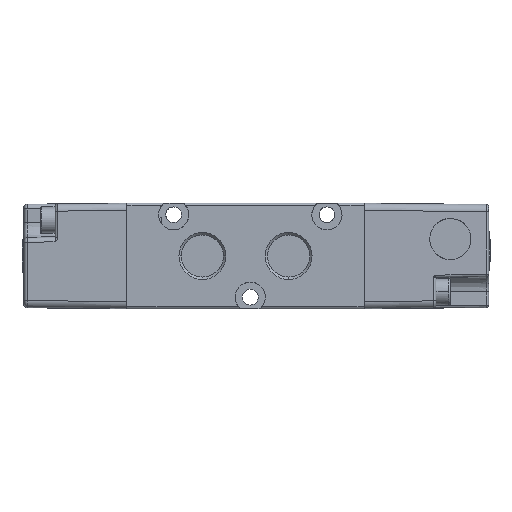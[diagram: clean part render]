
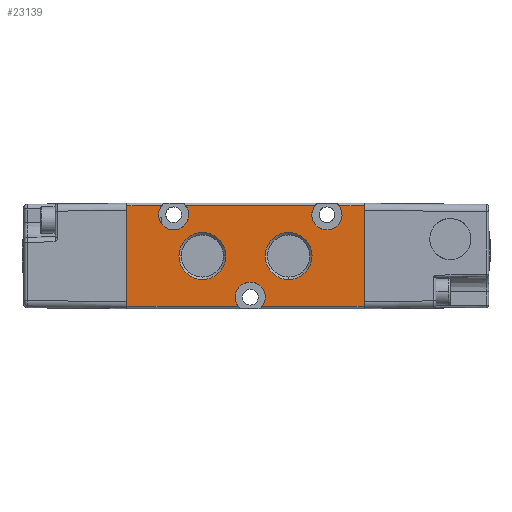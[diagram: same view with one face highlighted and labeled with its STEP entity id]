
A CAD part, left-side view. The second image highlights one B-rep face of the part: STEP entity #23139.
In plain terms, the highlighted planar face has unit normal (-1, 0, 0).
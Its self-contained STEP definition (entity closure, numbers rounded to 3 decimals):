
#2345 = CARTESIAN_POINT ( 'NONE',  ( -15., 19.762, -10.5 ) ) ;
#2474 = CARTESIAN_POINT ( 'NONE',  ( -15., 9.25, -4.889 ) ) ;
#2821 = DIRECTION ( 'NONE',  ( 0., 1., 0. ) ) ;
#2849 = VERTEX_POINT ( 'NONE', #44938 ) ;
#3246 = ORIENTED_EDGE ( 'NONE', *, *, #46863, .F. ) ;
#3263 = ORIENTED_EDGE ( 'NONE', *, *, #46313, .F. ) ;
#3971 = DIRECTION ( 'NONE',  ( 0., 0., 1. ) ) ;
#4009 = DIRECTION ( 'NONE',  ( 0., -1., 0. ) ) ;
#4620 = CARTESIAN_POINT ( 'NONE',  ( -15., 43., -10.5 ) ) ;
#4960 = CARTESIAN_POINT ( 'NONE',  ( -15., 30.738, 10.5 ) ) ;
#5163 = CARTESIAN_POINT ( 'NONE',  ( -15., 22.361, 0. ) ) ;
#5826 = CARTESIAN_POINT ( 'NONE',  ( -15., -6.5, 10.5 ) ) ;
#6376 = ORIENTED_EDGE ( 'NONE', *, *, #54886, .F. ) ;
#7271 = DIRECTION ( 'NONE',  ( -1., 0., 0. ) ) ;
#7297 = VECTOR ( 'NONE', #54016, 1000. ) ;
#7388 = VECTOR ( 'NONE', #11085, 1000. ) ;
#7476 = DIRECTION ( 'NONE',  ( 0., 0., 1. ) ) ;
#8028 = VERTEX_POINT ( 'NONE', #33678 ) ;
#8368 = DIRECTION ( 'NONE',  ( 0., -1., 0. ) ) ;
#9202 = LINE ( 'NONE', #51783, #60803 ) ;
#9768 = LINE ( 'NONE', #13163, #16576 ) ;
#11085 = DIRECTION ( 'NONE',  ( 0., -1., 0. ) ) ;
#11705 = VERTEX_POINT ( 'NONE', #55045 ) ;
#11983 = CARTESIAN_POINT ( 'NONE',  ( -15., 43., 9.5 ) ) ;
#12382 = LINE ( 'NONE', #18381, #60883 ) ;
#13163 = CARTESIAN_POINT ( 'NONE',  ( -15., -6.5, -10.5 ) ) ;
#13712 = EDGE_CURVE ( 'NONE', #8028, #11705, #54374, .T. ) ;
#14133 = CARTESIAN_POINT ( 'NONE',  ( -15., -6.5, -10.5 ) ) ;
#15163 = ORIENTED_EDGE ( 'NONE', *, *, #25943, .F. ) ;
#15460 = AXIS2_PLACEMENT_3D ( 'NONE', #16126, #35174, #20365 ) ;
#15643 = AXIS2_PLACEMENT_3D ( 'NONE', #60133, #41728, #26009 ) ;
#15904 = CARTESIAN_POINT ( 'NONE',  ( -15., 9.25, 0. ) ) ;
#16126 = CARTESIAN_POINT ( 'NONE',  ( -15., 27.25, 0. ) ) ;
#16576 = VECTOR ( 'NONE', #2821, 1000. ) ;
#16968 = EDGE_CURVE ( 'NONE', #37640, #38737, #17008, .T. ) ;
#17008 = CIRCLE ( 'NONE', #15460, 4.889 ) ;
#17169 = EDGE_CURVE ( 'NONE', #2849, #28613, #12382, .T. ) ;
#18381 = CARTESIAN_POINT ( 'NONE',  ( -15., 43., 11. ) ) ;
#18527 = DIRECTION ( 'NONE',  ( -1., 0., 0. ) ) ;
#18987 = DIRECTION ( 'NONE',  ( 1., 0., 0. ) ) ;
#19299 = ORIENTED_EDGE ( 'NONE', *, *, #56926, .F. ) ;
#19362 = LINE ( 'NONE', #34956, #7297 ) ;
#19928 = CIRCLE ( 'NONE', #52642, 4.889 ) ;
#20365 = DIRECTION ( 'NONE',  ( 0., -1., 0. ) ) ;
#20792 = DIRECTION ( 'NONE',  ( 0., 0., 1. ) ) ;
#21011 = CARTESIAN_POINT ( 'NONE',  ( -15., 3.762, 10.5 ) ) ;
#21305 = VERTEX_POINT ( 'NONE', #4620 ) ;
#21935 = VERTEX_POINT ( 'NONE', #43097 ) ;
#22411 = EDGE_CURVE ( 'NONE', #26542, #53039, #52886, .T. ) ;
#23139 = ADVANCED_FACE ( 'NONE', ( #42223, #26261, #58104 ), #40029, .F. ) ;
#24054 = ORIENTED_EDGE ( 'NONE', *, *, #13712, .T. ) ;
#25943 = EDGE_CURVE ( 'NONE', #38737, #37640, #19928, .T. ) ;
#26009 = DIRECTION ( 'NONE',  ( 0., 1., 0. ) ) ;
#26261 = FACE_BOUND ( 'NONE', #60835, .T. ) ;
#26542 = VERTEX_POINT ( 'NONE', #50481 ) ;
#26573 = ORIENTED_EDGE ( 'NONE', *, *, #61512, .F. ) ;
#27209 = CARTESIAN_POINT ( 'NONE',  ( -15., 32.139, 0. ) ) ;
#27777 = EDGE_CURVE ( 'NONE', #36330, #21935, #58152, .T. ) ;
#27795 = ORIENTED_EDGE ( 'NONE', *, *, #22411, .F. ) ;
#27886 = EDGE_CURVE ( 'NONE', #43817, #21935, #44523, .T. ) ;
#28254 = VECTOR ( 'NONE', #34217, 1000. ) ;
#28613 = VERTEX_POINT ( 'NONE', #11983 ) ;
#29176 = ORIENTED_EDGE ( 'NONE', *, *, #44911, .F. ) ;
#29525 = CIRCLE ( 'NONE', #30708, 3.15 ) ;
#29593 = CARTESIAN_POINT ( 'NONE',  ( -15., -6.5, 10.5 ) ) ;
#30027 = VECTOR ( 'NONE', #4009, 1000. ) ;
#30489 = ORIENTED_EDGE ( 'NONE', *, *, #27777, .T. ) ;
#30708 = AXIS2_PLACEMENT_3D ( 'NONE', #47584, #18527, #62178 ) ;
#31748 = ORIENTED_EDGE ( 'NONE', *, *, #17169, .F. ) ;
#31763 = CARTESIAN_POINT ( 'NONE',  ( -15., 33.25, 8.6 ) ) ;
#31909 = VERTEX_POINT ( 'NONE', #2474 ) ;
#32131 = AXIS2_PLACEMENT_3D ( 'NONE', #15904, #55274, #20792 ) ;
#32332 = DIRECTION ( 'NONE',  ( 0., 0., 1. ) ) ;
#32799 = CIRCLE ( 'NONE', #60992, 3.15 ) ;
#33394 = CARTESIAN_POINT ( 'NONE',  ( -15., -6.5, -10.5 ) ) ;
#33521 = CARTESIAN_POINT ( 'NONE',  ( -15., 43., 10.5 ) ) ;
#33659 = VECTOR ( 'NONE', #38807, 1000. ) ;
#33671 = CARTESIAN_POINT ( 'NONE',  ( -15., 9.25, 4.889 ) ) ;
#33678 = CARTESIAN_POINT ( 'NONE',  ( -15., 17.25, -5.45 ) ) ;
#33937 = CARTESIAN_POINT ( 'NONE',  ( -15., -6.5, 11. ) ) ;
#34217 = DIRECTION ( 'NONE',  ( 0., 1., 0. ) ) ;
#34269 = ORIENTED_EDGE ( 'NONE', *, *, #16968, .F. ) ;
#34926 = EDGE_LOOP ( 'NONE', ( #41320, #24054, #29176, #30489, #54664, #3263, #19299, #27795, #26573, #42790, #31748, #53681, #3246 ) ) ;
#34956 = CARTESIAN_POINT ( 'NONE',  ( -15., 43., 11. ) ) ;
#35174 = DIRECTION ( 'NONE',  ( -1., 0., 0. ) ) ;
#35463 = CARTESIAN_POINT ( 'NONE',  ( -15., 27.25, 0. ) ) ;
#36129 = CARTESIAN_POINT ( 'NONE',  ( -15., 43., 11. ) ) ;
#36330 = VERTEX_POINT ( 'NONE', #33394 ) ;
#37640 = VERTEX_POINT ( 'NONE', #5163 ) ;
#38478 = VECTOR ( 'NONE', #53651, 1000. ) ;
#38737 = VERTEX_POINT ( 'NONE', #27209 ) ;
#38807 = DIRECTION ( 'NONE',  ( 0., 0., -1. ) ) ;
#40029 = PLANE ( 'NONE',  #15643 ) ;
#41320 = ORIENTED_EDGE ( 'NONE', *, *, #62832, .T. ) ;
#41728 = DIRECTION ( 'NONE',  ( 1., 0., 0. ) ) ;
#42223 = FACE_OUTER_BOUND ( 'NONE', #34926, .T. ) ;
#42790 = ORIENTED_EDGE ( 'NONE', *, *, #50272, .T. ) ;
#43097 = CARTESIAN_POINT ( 'NONE',  ( -15., -6.5, 10.5 ) ) ;
#43817 = VERTEX_POINT ( 'NONE', #58960 ) ;
#44177 = CIRCLE ( 'NONE', #46361, 4.889 ) ;
#44280 = DIRECTION ( 'NONE',  ( 0., 0., 1. ) ) ;
#44505 = AXIS2_PLACEMENT_3D ( 'NONE', #31763, #7271, #7476 ) ;
#44523 = LINE ( 'NONE', #5826, #7388 ) ;
#44911 = EDGE_CURVE ( 'NONE', #36330, #11705, #58631, .T. ) ;
#44938 = CARTESIAN_POINT ( 'NONE',  ( -15., 43., -9.5 ) ) ;
#46313 = EDGE_CURVE ( 'NONE', #54650, #43817, #29525, .T. ) ;
#46361 = AXIS2_PLACEMENT_3D ( 'NONE', #58856, #58648, #44280 ) ;
#46863 = EDGE_CURVE ( 'NONE', #56429, #21305, #9768, .T. ) ;
#47584 = CARTESIAN_POINT ( 'NONE',  ( -15., 1.25, 8.6 ) ) ;
#48833 = CIRCLE ( 'NONE', #32131, 4.889 ) ;
#48931 = VERTEX_POINT ( 'NONE', #33521 ) ;
#49121 = DIRECTION ( 'NONE',  ( 0., 0., 1. ) ) ;
#49955 = DIRECTION ( 'NONE',  ( -1., 0., 0. ) ) ;
#50272 = EDGE_CURVE ( 'NONE', #48931, #28613, #51194, .T. ) ;
#50281 = VERTEX_POINT ( 'NONE', #33671 ) ;
#50481 = CARTESIAN_POINT ( 'NONE',  ( -15., 35.762, 10.5 ) ) ;
#50611 = EDGE_CURVE ( 'NONE', #50281, #31909, #48833, .T. ) ;
#51194 = LINE ( 'NONE', #36129, #33659 ) ;
#51783 = CARTESIAN_POINT ( 'NONE',  ( -15., -6.5, 10.5 ) ) ;
#52036 = EDGE_LOOP ( 'NONE', ( #53851, #6376 ) ) ;
#52642 = AXIS2_PLACEMENT_3D ( 'NONE', #35463, #49955, #59618 ) ;
#52886 = CIRCLE ( 'NONE', #44505, 3.15 ) ;
#53039 = VERTEX_POINT ( 'NONE', #4960 ) ;
#53651 = DIRECTION ( 'NONE',  ( 0., 0., 1. ) ) ;
#53681 = ORIENTED_EDGE ( 'NONE', *, *, #62161, .T. ) ;
#53851 = ORIENTED_EDGE ( 'NONE', *, *, #50611, .F. ) ;
#54016 = DIRECTION ( 'NONE',  ( 0., 0., -1. ) ) ;
#54374 = CIRCLE ( 'NONE', #56786, 3.15 ) ;
#54547 = CARTESIAN_POINT ( 'NONE',  ( -15., 17.25, -8.6 ) ) ;
#54650 = VERTEX_POINT ( 'NONE', #21011 ) ;
#54664 = ORIENTED_EDGE ( 'NONE', *, *, #27886, .F. ) ;
#54886 = EDGE_CURVE ( 'NONE', #31909, #50281, #44177, .T. ) ;
#55045 = CARTESIAN_POINT ( 'NONE',  ( -15., 14.738, -10.5 ) ) ;
#55274 = DIRECTION ( 'NONE',  ( -1., 0., 0. ) ) ;
#55799 = LINE ( 'NONE', #29593, #30027 ) ;
#56429 = VERTEX_POINT ( 'NONE', #2345 ) ;
#56786 = AXIS2_PLACEMENT_3D ( 'NONE', #54547, #59434, #49121 ) ;
#56926 = EDGE_CURVE ( 'NONE', #53039, #54650, #55799, .T. ) ;
#58104 = FACE_BOUND ( 'NONE', #52036, .T. ) ;
#58152 = LINE ( 'NONE', #33937, #38478 ) ;
#58631 = LINE ( 'NONE', #14133, #28254 ) ;
#58648 = DIRECTION ( 'NONE',  ( -1., 0., 0. ) ) ;
#58856 = CARTESIAN_POINT ( 'NONE',  ( -15., 9.25, 0. ) ) ;
#58960 = CARTESIAN_POINT ( 'NONE',  ( -15., -1.262, 10.5 ) ) ;
#59434 = DIRECTION ( 'NONE',  ( 1., 0., 0. ) ) ;
#59618 = DIRECTION ( 'NONE',  ( 0., -1., 0. ) ) ;
#60133 = CARTESIAN_POINT ( 'NONE',  ( -15., -6.5, 11. ) ) ;
#60803 = VECTOR ( 'NONE', #8368, 1000. ) ;
#60835 = EDGE_LOOP ( 'NONE', ( #34269, #15163 ) ) ;
#60883 = VECTOR ( 'NONE', #32332, 1000. ) ;
#60992 = AXIS2_PLACEMENT_3D ( 'NONE', #62863, #18987, #3971 ) ;
#61512 = EDGE_CURVE ( 'NONE', #48931, #26542, #9202, .T. ) ;
#62161 = EDGE_CURVE ( 'NONE', #2849, #21305, #19362, .T. ) ;
#62178 = DIRECTION ( 'NONE',  ( 0., 0., 1. ) ) ;
#62832 = EDGE_CURVE ( 'NONE', #56429, #8028, #32799, .T. ) ;
#62863 = CARTESIAN_POINT ( 'NONE',  ( -15., 17.25, -8.6 ) ) ;
